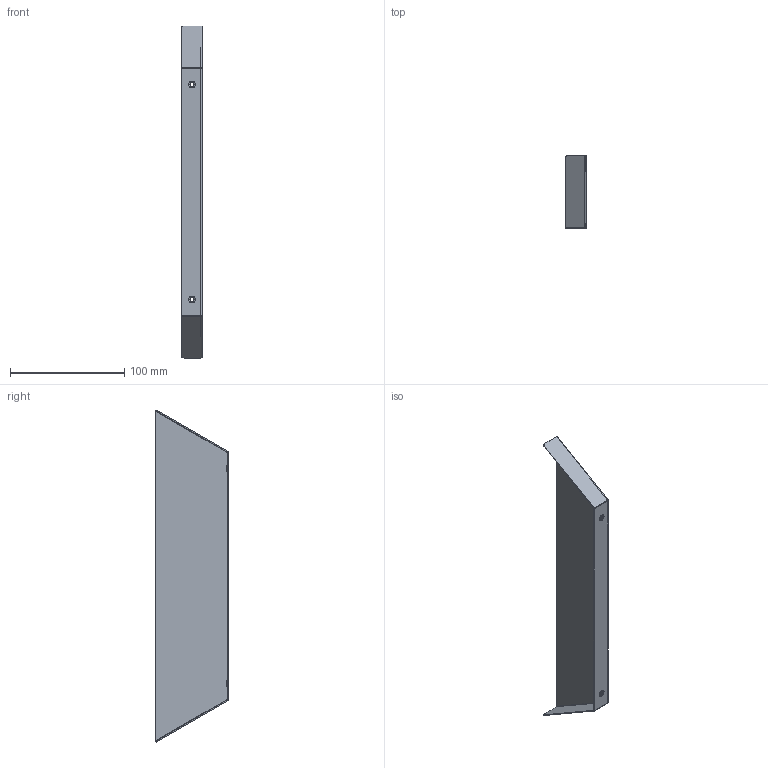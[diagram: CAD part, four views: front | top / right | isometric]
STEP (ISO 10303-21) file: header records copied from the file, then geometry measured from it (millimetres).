
FILE_DESCRIPTION((''),'2;1');
FILE_NAME('PHDM0065A','2019-09-27T08:43:34',('william tan'),(''),'CREO PARAMETRIC BY PTC INC, 2019080','CREO PARAMETRIC BY PTC INC, 2019080','');
FILE_SCHEMA(());
Length unit declared in the file: millimetre
Products named in the file (1): PHDM0065A
Bounding box: 18 x 64.2 x 291.08 mm (x, y, z)
Volume: 15752.3 mm3; surface area: 45595.4 mm2
Topology: 1 solids, 3 shells, 56 faces, 130 edges, 76 vertices
Faces by surface type: plane 24, cylinder 20, torus 8, bspline 4
Entity records: 2332 total; most frequent: CARTESIAN_POINT 1039, DIRECTION 284, ORIENTED_EDGE 244, EDGE_CURVE 130, AXIS2_PLACEMENT_3D 109, VERTEX_POINT 76, VECTOR 66, LINE 66
